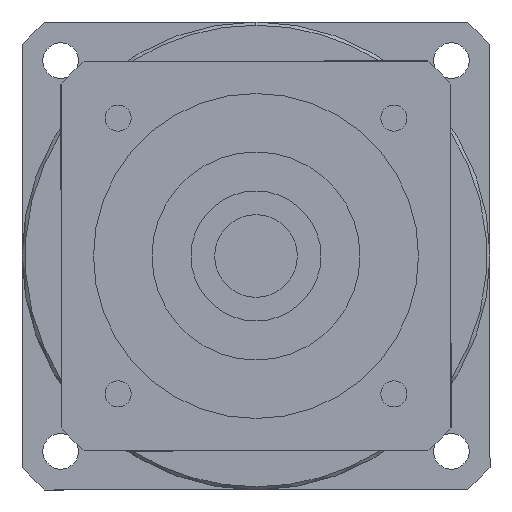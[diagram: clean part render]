
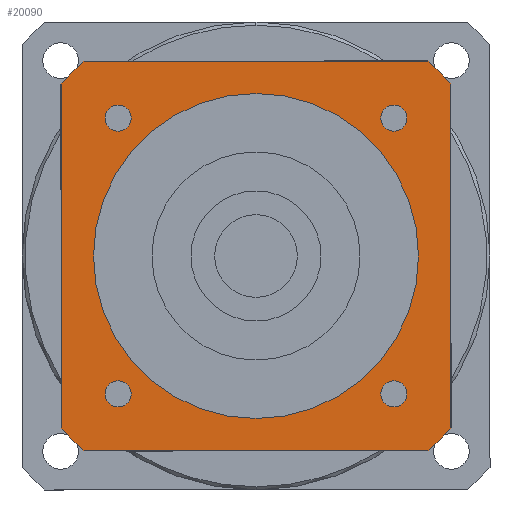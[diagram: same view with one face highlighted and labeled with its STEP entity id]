
A CAD part, left-side view. The second image highlights one B-rep face of the part: STEP entity #20090.
In plain terms, the highlighted planar face has unit normal (-1, 0, 0) as drawn and (0, 0, -1) by its records, which use the part's own axes.
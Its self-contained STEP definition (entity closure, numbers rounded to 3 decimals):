
#15250=CARTESIAN_POINT('',(26.458,-30.,-91.5));
#15260=VERTEX_POINT('',#15250);
#15420=CARTESIAN_POINT('',(30.,-26.458,-91.5));
#15430=VERTEX_POINT('',#15420);
#15460=CARTESIAN_POINT('',(0.,0.,
-91.5));
#15470=DIRECTION('',(0.,0.,1.));
#15480=DIRECTION('',(0.,-1.,0.));
#15490=AXIS2_PLACEMENT_3D('',#15460,#15470,#15480);
#15500=CIRCLE('',#15490,40.);
#15510=EDGE_CURVE('',#15260,#15430,#15500,.T.);
#17670=CARTESIAN_POINT('',(26.458,30.,-91.5));
#17680=VERTEX_POINT('',#17670);
#17860=CARTESIAN_POINT('',(-26.458,30.,-91.5));
#17870=VERTEX_POINT('',#17860);
#17900=CARTESIAN_POINT('',(30.,30.,-91.5));
#17910=DIRECTION('',(-1.,0.,0.));
#17920=VECTOR('',#17910,1000.);
#17930=LINE('',#17900,#17920);
#17940=EDGE_CURVE('',#17680,#17870,#17930,.T.);
#18300=CARTESIAN_POINT('',(-30.,26.458,-91.5));
#18310=VERTEX_POINT('',#18300);
#18340=CARTESIAN_POINT('',(0.,0.,
-91.5));
#18350=DIRECTION('',(0.,0.,1.));
#18360=DIRECTION('',(0.,-1.,0.));
#18370=AXIS2_PLACEMENT_3D('',#18340,#18350,#18360);
#18380=CIRCLE('',#18370,40.);
#18390=EDGE_CURVE('',#17870,#18310,#18380,.T.);
#18600=CARTESIAN_POINT('',(-30.,-26.458,-91.5));
#18610=VERTEX_POINT('',#18600);
#18640=CARTESIAN_POINT('',(-30.,30.,-91.5));
#18650=DIRECTION('',(0.,-1.,0.));
#18660=VECTOR('',#18650,1000.);
#18670=LINE('',#18640,#18660);
#18680=EDGE_CURVE('',#18310,#18610,#18670,.T.);
#18730=CARTESIAN_POINT('',(-30.,30.,-91.5));
#18740=DIRECTION('',(0.,0.,1.));
#18750=DIRECTION('',(-1.,0.,0.));
#18760=AXIS2_PLACEMENT_3D('',#18730,#18740,#18750);
#18770=PLANE('',#18760);
#18780=CARTESIAN_POINT('',(21.213,-21.213,-91.5));
#18790=DIRECTION('',(0.,0.,-1.));
#18800=DIRECTION('',(1.,0.,0.));
#18810=AXIS2_PLACEMENT_3D('',#18780,#18790,#18800);
#18820=CIRCLE('',#18810,2.);
#18830=CARTESIAN_POINT('',(23.213,-21.213,-91.5));
#18840=VERTEX_POINT('',#18830);
#18850=CARTESIAN_POINT('',(21.213,-23.213,-91.5));
#18860=VERTEX_POINT('',#18850);
#18870=EDGE_CURVE('',#18840,#18860,#18820,.T.);
#18880=ORIENTED_EDGE('',*,*,#18870,.F.);
#18890=CARTESIAN_POINT('',(21.213,-19.213,-91.5));
#18900=VERTEX_POINT('',#18890);
#18910=EDGE_CURVE('',#18860,#18900,#18820,.T.);
#18920=ORIENTED_EDGE('',*,*,#18910,.F.);
#18930=EDGE_CURVE('',#18900,#18840,#18820,.T.);
#18940=ORIENTED_EDGE('',*,*,#18930,.F.);
#18950=EDGE_LOOP('',(#18940,#18920,#18880));
#18960=FACE_BOUND('',#18950,.T.);
#18970=CARTESIAN_POINT('',(21.213,21.213,-91.5));
#18980=DIRECTION('',(0.,0.,-1.));
#18990=DIRECTION('',(0.,1.,0.));
#19000=AXIS2_PLACEMENT_3D('',#18970,#18980,#18990);
#19010=CIRCLE('',#19000,2.);
#19020=CARTESIAN_POINT('',(21.213,23.213,-91.5));
#19030=VERTEX_POINT('',#19020);
#19040=CARTESIAN_POINT('',(23.213,21.213,-91.5));
#19050=VERTEX_POINT('',#19040);
#19060=EDGE_CURVE('',#19030,#19050,#19010,.T.);
#19070=ORIENTED_EDGE('',*,*,#19060,.F.);
#19080=CARTESIAN_POINT('',(19.213,21.213,-91.5));
#19090=VERTEX_POINT('',#19080);
#19100=EDGE_CURVE('',#19050,#19090,#19010,.T.);
#19110=ORIENTED_EDGE('',*,*,#19100,.F.);
#19120=EDGE_CURVE('',#19090,#19030,#19010,.T.);
#19130=ORIENTED_EDGE('',*,*,#19120,.F.);
#19140=EDGE_LOOP('',(#19130,#19110,#19070));
#19150=FACE_BOUND('',#19140,.T.);
#19160=CARTESIAN_POINT('',(-21.213,21.213,-91.5));
#19170=DIRECTION('',(0.,0.,-1.));
#19180=DIRECTION('',(-1.,0.,0.));
#19190=AXIS2_PLACEMENT_3D('',#19160,#19170,#19180);
#19200=CIRCLE('',#19190,2.);
#19210=CARTESIAN_POINT('',(-23.213,21.213,-91.5));
#19220=VERTEX_POINT('',#19210);
#19230=CARTESIAN_POINT('',(-21.213,23.213,-91.5));
#19240=VERTEX_POINT('',#19230);
#19250=EDGE_CURVE('',#19220,#19240,#19200,.T.);
#19260=ORIENTED_EDGE('',*,*,#19250,.F.);
#19270=CARTESIAN_POINT('',(-21.213,19.213,-91.5));
#19280=VERTEX_POINT('',#19270);
#19290=EDGE_CURVE('',#19240,#19280,#19200,.T.);
#19300=ORIENTED_EDGE('',*,*,#19290,.F.);
#19310=EDGE_CURVE('',#19280,#19220,#19200,.T.);
#19320=ORIENTED_EDGE('',*,*,#19310,.F.);
#19330=EDGE_LOOP('',(#19320,#19300,#19260));
#19340=FACE_BOUND('',#19330,.T.);
#19350=CARTESIAN_POINT('',(-21.213,-21.213,-91.5));
#19360=DIRECTION('',(0.,0.,-1.));
#19370=DIRECTION('',(0.,-1.,0.));
#19380=AXIS2_PLACEMENT_3D('',#19350,#19360,#19370);
#19390=CIRCLE('',#19380,2.);
#19400=CARTESIAN_POINT('',(-21.213,-23.213,-91.5));
#19410=VERTEX_POINT('',#19400);
#19420=CARTESIAN_POINT('',(-23.213,-21.213,-91.5));
#19430=VERTEX_POINT('',#19420);
#19440=EDGE_CURVE('',#19410,#19430,#19390,.T.);
#19450=ORIENTED_EDGE('',*,*,#19440,.F.);
#19460=CARTESIAN_POINT('',(-19.213,-21.213,-91.5));
#19470=VERTEX_POINT('',#19460);
#19480=EDGE_CURVE('',#19430,#19470,#19390,.T.);
#19490=ORIENTED_EDGE('',*,*,#19480,.F.);
#19500=EDGE_CURVE('',#19470,#19410,#19390,.T.);
#19510=ORIENTED_EDGE('',*,*,#19500,.F.);
#19520=EDGE_LOOP('',(#19510,#19490,#19450));
#19530=FACE_BOUND('',#19520,.T.);
#19540=CARTESIAN_POINT('',(0.,0.,
-91.5));
#19550=DIRECTION('',(0.,0.,1.));
#19560=DIRECTION('',(0.,-1.,0.));
#19570=AXIS2_PLACEMENT_3D('',#19540,#19550,#19560);
#19580=CIRCLE('',#19570,40.);
#19590=CARTESIAN_POINT('',(-26.458,-30.,-91.5));
#19600=VERTEX_POINT('',#19590);
#19610=EDGE_CURVE('',#18610,#19600,#19580,.T.);
#19620=ORIENTED_EDGE('',*,*,#19610,.F.);
#19630=CARTESIAN_POINT('',(-30.,-30.,-91.5));
#19640=DIRECTION('',(1.,0.,0.));
#19650=VECTOR('',#19640,1000.);
#19660=LINE('',#19630,#19650);
#19670=EDGE_CURVE('',#19600,#15260,#19660,.T.);
#19680=ORIENTED_EDGE('',*,*,#19670,.F.);
#19690=ORIENTED_EDGE('',*,*,#15510,.F.);
#19700=CARTESIAN_POINT('',(30.,-30.,-91.5));
#19710=DIRECTION('',(0.,1.,0.));
#19720=VECTOR('',#19710,1000.);
#19730=LINE('',#19700,#19720);
#19740=CARTESIAN_POINT('',(30.,26.458,-91.5));
#19750=VERTEX_POINT('',#19740);
#19760=EDGE_CURVE('',#15430,#19750,#19730,.T.);
#19770=ORIENTED_EDGE('',*,*,#19760,.F.);
#19780=CARTESIAN_POINT('',(0.,0.,
-91.5));
#19790=DIRECTION('',(0.,0.,1.));
#19800=DIRECTION('',(0.,-1.,0.));
#19810=AXIS2_PLACEMENT_3D('',#19780,#19790,#19800);
#19820=CIRCLE('',#19810,40.);
#19830=EDGE_CURVE('',#19750,#17680,#19820,.T.);
#19840=ORIENTED_EDGE('',*,*,#19830,.F.);
#19850=ORIENTED_EDGE('',*,*,#17940,.F.);
#19860=ORIENTED_EDGE('',*,*,#18390,.F.);
#19870=ORIENTED_EDGE('',*,*,#18680,.F.);
#19880=EDGE_LOOP('',(#19870,#19860,#19850,#19840,#19770,#19690,#19680,
#19620));
#19890=FACE_OUTER_BOUND('',#19880,.T.);
#19900=CARTESIAN_POINT('',(0.,0.,
-91.5));
#19910=DIRECTION('',(0.,0.,1.));
#19920=DIRECTION('',(0.,-1.,0.));
#19930=AXIS2_PLACEMENT_3D('',#19900,#19910,#19920);
#19940=CIRCLE('',#19930,25.);
#19950=CARTESIAN_POINT('',(25.,0.,-91.5));
#19960=VERTEX_POINT('',#19950);
#19970=CARTESIAN_POINT('',(-25.,0.,-91.5));
#19980=VERTEX_POINT('',#19970);
#19990=EDGE_CURVE('',#19960,#19980,#19940,.T.);
#20000=ORIENTED_EDGE('',*,*,#19990,.T.);
#20010=CARTESIAN_POINT('',(0.,-25.,-91.5));
#20020=VERTEX_POINT('',#20010);
#20030=EDGE_CURVE('',#20020,#19960,#19940,.T.);
#20040=ORIENTED_EDGE('',*,*,#20030,.T.);
#20050=EDGE_CURVE('',#19980,#20020,#19940,.T.);
#20060=ORIENTED_EDGE('',*,*,#20050,.T.);
#20070=EDGE_LOOP('',(#20060,#20040,#20000));
#20080=FACE_BOUND('',#20070,.T.);
#20090=ADVANCED_FACE('',(#18960,#19150,#19340,#19530,#19890,#20080),
#18770,.F.);
